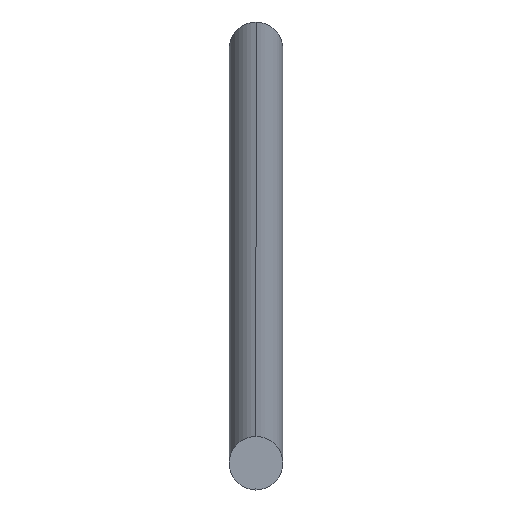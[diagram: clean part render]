
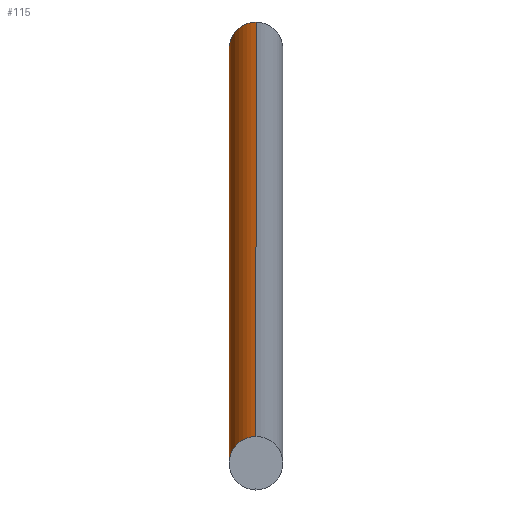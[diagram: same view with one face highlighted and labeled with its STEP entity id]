
A CAD part, left-side view. The second image highlights one B-rep face of the part: STEP entity #115.
In plain terms, the highlighted cylindrical face has radius 3 mm (diameter 6 mm), a partial arc.
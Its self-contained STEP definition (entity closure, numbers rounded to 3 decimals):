
#1=CARTESIAN_POINT('',(600.834,0.,-141.139));
#2=DIRECTION('',(-0.997,0.,-0.077));
#3=DIRECTION('',(-0.077,0.,0.997));
#4=AXIS2_PLACEMENT_3D('',#1,#2,#3);
#21=DIRECTION('',(-0.997,0.,-0.077));
#22=VECTOR('',#21,599.154);
#23=CARTESIAN_POINT('',(600.602,0.,-138.148));
#24=LINE('',#23,#22);
#25=DIRECTION('',(-0.997,0.,-0.077));
#26=VECTOR('',#25,599.154);
#27=CARTESIAN_POINT('',(601.066,0.,-144.13));
#28=LINE('',#27,#26);
#29=CARTESIAN_POINT('',(3.47,0.,-187.422));
#30=DIRECTION('',(-0.997,0.,-0.077));
#31=DIRECTION('',(-0.077,0.,0.997));
#32=AXIS2_PLACEMENT_3D('',#29,#30,#31);
#65=CARTESIAN_POINT('',(600.602,0.,-138.148));
#66=CARTESIAN_POINT('',(601.066,0.,-144.13));
#67=VERTEX_POINT('',#65);
#68=VERTEX_POINT('',#66);
#69=CARTESIAN_POINT('',(3.238,0.,-184.431));
#70=CARTESIAN_POINT('',(3.702,0.,-190.413));
#71=VERTEX_POINT('',#69);
#72=VERTEX_POINT('',#70);
#101=CARTESIAN_POINT('',(600.834,0.,-141.139));
#102=DIRECTION('',(-0.997,0.,-0.077));
#103=DIRECTION('',(-0.077,0.,0.997));
#104=AXIS2_PLACEMENT_3D('',#101,#102,#103);
#105=CYLINDRICAL_SURFACE('',#104,3.);
#106=ORIENTED_EDGE('',*,*,#88,.F.);
#108=ORIENTED_EDGE('',*,*,#107,.T.);
#110=ORIENTED_EDGE('',*,*,#109,.T.);
#112=ORIENTED_EDGE('',*,*,#111,.F.);
#113=EDGE_LOOP('',(#106,#108,#110,#112));
#114=FACE_OUTER_BOUND('',#113,.F.);
#115=ADVANCED_FACE('',(#114),#105,.T.);
#5=CIRCLE('',#4,3.);
#33=CIRCLE('',#32,3.);
#88=EDGE_CURVE('',#67,#68,#5,.T.);
#107=EDGE_CURVE('',#67,#71,#24,.T.);
#109=EDGE_CURVE('',#71,#72,#33,.T.);
#111=EDGE_CURVE('',#68,#72,#28,.T.);
